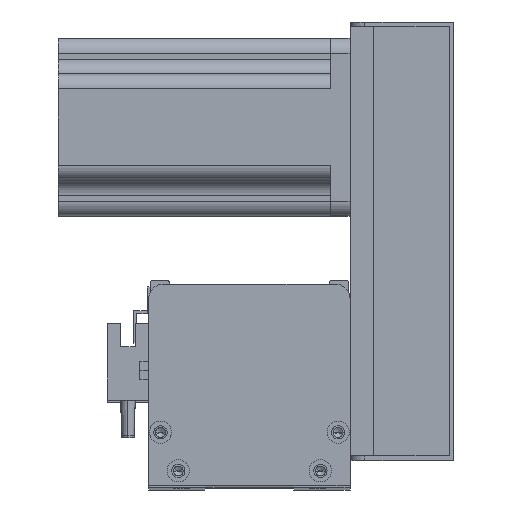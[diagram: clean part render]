
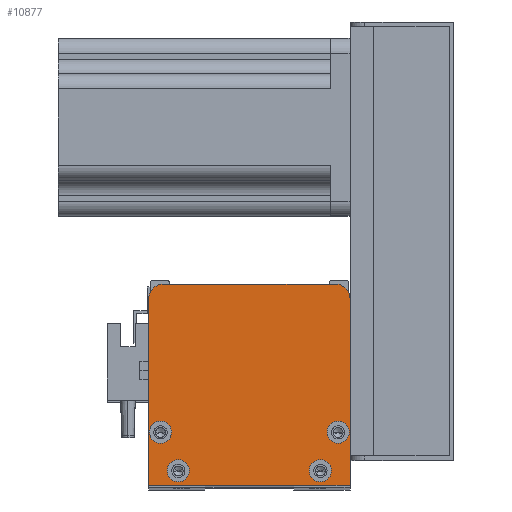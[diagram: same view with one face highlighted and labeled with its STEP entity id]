
A CAD part, top view. The second image highlights one B-rep face of the part: STEP entity #10877.
In plain terms, the highlighted planar face has unit normal (0, 0, 1).
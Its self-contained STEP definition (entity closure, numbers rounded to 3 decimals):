
#217 = AXIS2_PLACEMENT_3D ( 'NONE', #25417, #17138, #23267 ) ;
#337 = CARTESIAN_POINT ( 'NONE',  ( 61.75, 5., 64. ) ) ;
#517 = CARTESIAN_POINT ( 'NONE',  ( 60.25, 18., 64. ) ) ;
#873 = AXIS2_PLACEMENT_3D ( 'NONE', #2453, #21451, #20421 ) ;
#922 = FACE_BOUND ( 'NONE', #15992, .T. ) ;
#1318 = ORIENTED_EDGE ( 'NONE', *, *, #6149, .T. ) ;
#1531 = CARTESIAN_POINT ( 'NONE',  ( 68., 0., 64. ) ) ;
#1616 = DIRECTION ( 'NONE',  ( 0., 0., 1. ) ) ;
#1961 = AXIS2_PLACEMENT_3D ( 'NONE', #21411, #25473, #17275 ) ;
#2137 = DIRECTION ( 'NONE',  ( 0., 0., 1. ) ) ;
#2453 = CARTESIAN_POINT ( 'NONE',  ( 10., 5., 64. ) ) ;
#2748 = EDGE_LOOP ( 'NONE', ( #18411, #22413 ) ) ;
#2829 = CARTESIAN_POINT ( 'NONE',  ( 58., 5., 64. ) ) ;
#3202 = CIRCLE ( 'NONE', #7861, 3.75 ) ;
#3338 = ORIENTED_EDGE ( 'NONE', *, *, #23042, .F. ) ;
#3400 = DIRECTION ( 'NONE',  ( 1., 0., 0. ) ) ;
#3435 = VERTEX_POINT ( 'NONE', #517 ) ;
#3436 = ORIENTED_EDGE ( 'NONE', *, *, #24185, .T. ) ;
#3578 = ORIENTED_EDGE ( 'NONE', *, *, #27107, .T. ) ;
#3782 = DIRECTION ( 'NONE',  ( 0., 0., 1. ) ) ;
#4185 = AXIS2_PLACEMENT_3D ( 'NONE', #24263, #11634, #3400 ) ;
#4288 = LINE ( 'NONE', #9934, #9238 ) ;
#4508 = VECTOR ( 'NONE', #11961, 1000. ) ;
#4740 = EDGE_CURVE ( 'NONE', #21681, #3435, #5250, .T. ) ;
#4768 = ORIENTED_EDGE ( 'NONE', *, *, #25695, .F. ) ;
#4894 = FACE_BOUND ( 'NONE', #2748, .T. ) ;
#5250 = CIRCLE ( 'NONE', #4185, 3.75 ) ;
#5286 = CARTESIAN_POINT ( 'NONE',  ( 67.75, 18., 64. ) ) ;
#5932 = EDGE_CURVE ( 'NONE', #16689, #16378, #26170, .T. ) ;
#6008 = CIRCLE ( 'NONE', #10952, 3.75 ) ;
#6149 = EDGE_CURVE ( 'NONE', #12220, #16689, #16276, .T. ) ;
#6365 = CIRCLE ( 'NONE', #15550, 3.75 ) ;
#6370 = VERTEX_POINT ( 'NONE', #26310 ) ;
#6580 = CARTESIAN_POINT ( 'NONE',  ( 0., 0., 64. ) ) ;
#6875 = EDGE_LOOP ( 'NONE', ( #4768, #18404 ) ) ;
#7032 = CARTESIAN_POINT ( 'NONE',  ( 0., 63., 64. ) ) ;
#7361 = CARTESIAN_POINT ( 'NONE',  ( 0., 0., 64. ) ) ;
#7449 = DIRECTION ( 'NONE',  ( 0., -1., 0. ) ) ;
#7519 = AXIS2_PLACEMENT_3D ( 'NONE', #23497, #11044, #12806 ) ;
#7672 = ORIENTED_EDGE ( 'NONE', *, *, #11726, .F. ) ;
#7861 = AXIS2_PLACEMENT_3D ( 'NONE', #12656, #2137, #23154 ) ;
#7882 = DIRECTION ( 'NONE',  ( 1., 0., 0. ) ) ;
#7937 = DIRECTION ( 'NONE',  ( 1., 0., 0. ) ) ;
#7951 = CARTESIAN_POINT ( 'NONE',  ( 4., 18., 64. ) ) ;
#8512 = CARTESIAN_POINT ( 'NONE',  ( 64., 18., 64. ) ) ;
#8533 = FACE_OUTER_BOUND ( 'NONE', #23225, .T. ) ;
#8946 = CARTESIAN_POINT ( 'NONE',  ( 68., 0., 64. ) ) ;
#9238 = VECTOR ( 'NONE', #20365, 1000. ) ;
#9934 = CARTESIAN_POINT ( 'NONE',  ( 68., 0., 64. ) ) ;
#10583 = VERTEX_POINT ( 'NONE', #7032 ) ;
#10667 = CARTESIAN_POINT ( 'NONE',  ( 5., 68., 64. ) ) ;
#10877 = ADVANCED_FACE ( 'NONE', ( #4894, #17468, #12494, #922, #8533 ), #17066, .T. ) ;
#10952 = AXIS2_PLACEMENT_3D ( 'NONE', #22511, #3782, #7937 ) ;
#11044 = DIRECTION ( 'NONE',  ( 0., 0., 1. ) ) ;
#11113 = LINE ( 'NONE', #1531, #4508 ) ;
#11333 = VECTOR ( 'NONE', #25967, 1000. ) ;
#11634 = DIRECTION ( 'NONE',  ( 0., 0., 1. ) ) ;
#11726 = EDGE_CURVE ( 'NONE', #6370, #15010, #3202, .T. ) ;
#11814 = EDGE_CURVE ( 'NONE', #15010, #6370, #24643, .T. ) ;
#11961 = DIRECTION ( 'NONE',  ( 0., 1., 0. ) ) ;
#12220 = VERTEX_POINT ( 'NONE', #17758 ) ;
#12494 = FACE_BOUND ( 'NONE', #6875, .T. ) ;
#12656 = CARTESIAN_POINT ( 'NONE',  ( 58., 5., 64. ) ) ;
#12735 = VERTEX_POINT ( 'NONE', #6580 ) ;
#12806 = DIRECTION ( 'NONE',  ( 1., 0., 0. ) ) ;
#14054 = LINE ( 'NONE', #7361, #25272 ) ;
#14275 = CARTESIAN_POINT ( 'NONE',  ( 63., 63., 64. ) ) ;
#14415 = ORIENTED_EDGE ( 'NONE', *, *, #11814, .F. ) ;
#14505 = EDGE_CURVE ( 'NONE', #12735, #23994, #4288, .T. ) ;
#14709 = DIRECTION ( 'NONE',  ( 0., 0., 1. ) ) ;
#14818 = CARTESIAN_POINT ( 'NONE',  ( 63., 68., 64. ) ) ;
#15010 = VERTEX_POINT ( 'NONE', #337 ) ;
#15394 = DIRECTION ( 'NONE',  ( 0., 0., 1. ) ) ;
#15428 = CARTESIAN_POINT ( 'NONE',  ( 6.25, 5., 64. ) ) ;
#15550 = AXIS2_PLACEMENT_3D ( 'NONE', #8512, #14709, #25405 ) ;
#15667 = CIRCLE ( 'NONE', #1961, 3.75 ) ;
#15669 = EDGE_CURVE ( 'NONE', #20671, #19430, #17145, .T. ) ;
#15838 = EDGE_CURVE ( 'NONE', #18576, #19271, #24399, .T. ) ;
#15992 = EDGE_LOOP ( 'NONE', ( #14415, #7672 ) ) ;
#16276 = CIRCLE ( 'NONE', #21211, 5. ) ;
#16378 = VERTEX_POINT ( 'NONE', #10667 ) ;
#16506 = ORIENTED_EDGE ( 'NONE', *, *, #14505, .T. ) ;
#16689 = VERTEX_POINT ( 'NONE', #14818 ) ;
#16789 = CARTESIAN_POINT ( 'NONE',  ( 13.75, 5., 64. ) ) ;
#17066 = PLANE ( 'NONE',  #7519 ) ;
#17138 = DIRECTION ( 'NONE',  ( 0., 0., 1. ) ) ;
#17145 = CIRCLE ( 'NONE', #873, 3.75 ) ;
#17275 = DIRECTION ( 'NONE',  ( 1., 0., 0. ) ) ;
#17468 = FACE_BOUND ( 'NONE', #26514, .T. ) ;
#17758 = CARTESIAN_POINT ( 'NONE',  ( 68., 63., 64. ) ) ;
#17834 = EDGE_CURVE ( 'NONE', #10583, #12735, #14054, .T. ) ;
#17870 = CIRCLE ( 'NONE', #217, 5. ) ;
#18113 = ORIENTED_EDGE ( 'NONE', *, *, #15838, .F. ) ;
#18404 = ORIENTED_EDGE ( 'NONE', *, *, #15669, .F. ) ;
#18411 = ORIENTED_EDGE ( 'NONE', *, *, #4740, .F. ) ;
#18531 = CARTESIAN_POINT ( 'NONE',  ( 0.25, 18., 64. ) ) ;
#18576 = VERTEX_POINT ( 'NONE', #27132 ) ;
#19184 = ORIENTED_EDGE ( 'NONE', *, *, #5932, .T. ) ;
#19271 = VERTEX_POINT ( 'NONE', #18531 ) ;
#19430 = VERTEX_POINT ( 'NONE', #16789 ) ;
#20365 = DIRECTION ( 'NONE',  ( 1., 0., 0. ) ) ;
#20421 = DIRECTION ( 'NONE',  ( 1., 0., 0. ) ) ;
#20671 = VERTEX_POINT ( 'NONE', #15428 ) ;
#20986 = AXIS2_PLACEMENT_3D ( 'NONE', #2829, #15394, #21475 ) ;
#21211 = AXIS2_PLACEMENT_3D ( 'NONE', #14275, #1616, #7882 ) ;
#21411 = CARTESIAN_POINT ( 'NONE',  ( 10., 5., 64. ) ) ;
#21451 = DIRECTION ( 'NONE',  ( 0., 0., 1. ) ) ;
#21475 = DIRECTION ( 'NONE',  ( 1., 0., 0. ) ) ;
#21681 = VERTEX_POINT ( 'NONE', #5286 ) ;
#22413 = ORIENTED_EDGE ( 'NONE', *, *, #23573, .F. ) ;
#22511 = CARTESIAN_POINT ( 'NONE',  ( 4., 18., 64. ) ) ;
#22808 = DIRECTION ( 'NONE',  ( 1., 0., 0. ) ) ;
#23042 = EDGE_CURVE ( 'NONE', #19271, #18576, #6008, .T. ) ;
#23154 = DIRECTION ( 'NONE',  ( 1., 0., 0. ) ) ;
#23225 = EDGE_LOOP ( 'NONE', ( #19184, #3578, #23663, #16506, #3436, #1318 ) ) ;
#23267 = DIRECTION ( 'NONE',  ( 1., 0., 0. ) ) ;
#23497 = CARTESIAN_POINT ( 'NONE',  ( 0., 0., 64. ) ) ;
#23573 = EDGE_CURVE ( 'NONE', #3435, #21681, #6365, .T. ) ;
#23663 = ORIENTED_EDGE ( 'NONE', *, *, #17834, .T. ) ;
#23882 = AXIS2_PLACEMENT_3D ( 'NONE', #7951, #27039, #22808 ) ;
#23938 = CARTESIAN_POINT ( 'NONE',  ( 68., 68., 64. ) ) ;
#23994 = VERTEX_POINT ( 'NONE', #8946 ) ;
#24185 = EDGE_CURVE ( 'NONE', #23994, #12220, #11113, .T. ) ;
#24263 = CARTESIAN_POINT ( 'NONE',  ( 64., 18., 64. ) ) ;
#24399 = CIRCLE ( 'NONE', #23882, 3.75 ) ;
#24643 = CIRCLE ( 'NONE', #20986, 3.75 ) ;
#25272 = VECTOR ( 'NONE', #7449, 1000. ) ;
#25405 = DIRECTION ( 'NONE',  ( 1., 0., 0. ) ) ;
#25417 = CARTESIAN_POINT ( 'NONE',  ( 5., 63., 64. ) ) ;
#25473 = DIRECTION ( 'NONE',  ( 0., 0., 1. ) ) ;
#25695 = EDGE_CURVE ( 'NONE', #19430, #20671, #15667, .T. ) ;
#25967 = DIRECTION ( 'NONE',  ( -1., 0., 0. ) ) ;
#26170 = LINE ( 'NONE', #23938, #11333 ) ;
#26310 = CARTESIAN_POINT ( 'NONE',  ( 54.25, 5., 64. ) ) ;
#26514 = EDGE_LOOP ( 'NONE', ( #18113, #3338 ) ) ;
#27039 = DIRECTION ( 'NONE',  ( 0., 0., 1. ) ) ;
#27107 = EDGE_CURVE ( 'NONE', #16378, #10583, #17870, .T. ) ;
#27132 = CARTESIAN_POINT ( 'NONE',  ( 7.75, 18., 64. ) ) ;
